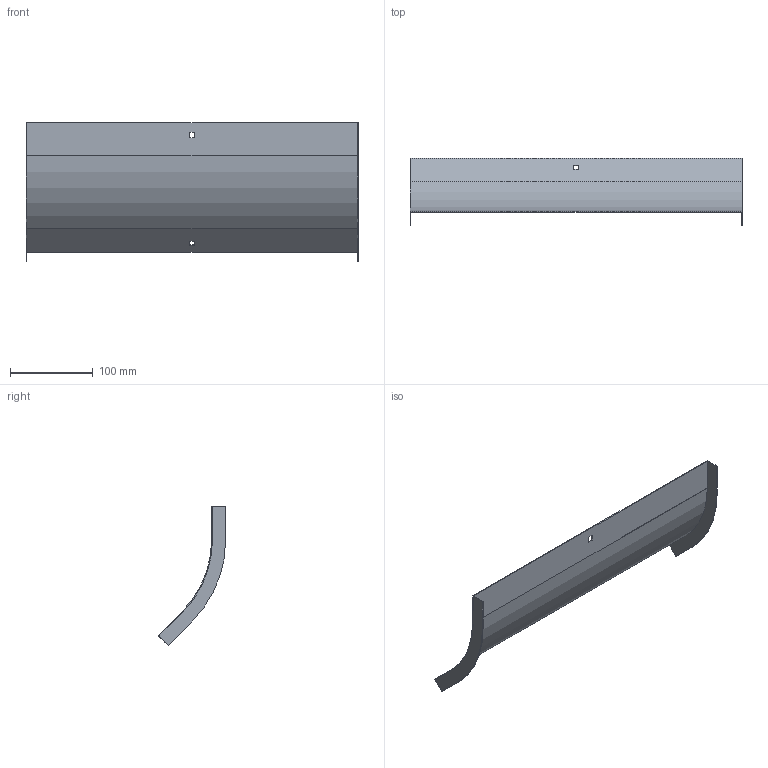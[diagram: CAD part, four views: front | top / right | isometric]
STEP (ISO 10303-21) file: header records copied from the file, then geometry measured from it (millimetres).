
FILE_DESCRIPTION (( 'STEP AP214' ), '1' );
FILE_NAME ('OS4_400.step', '2025-07-16T09:16:47', ( '' ), ( '' ), 'SwSTEP 2.0', 'SolidWorks 2023', '' );
FILE_SCHEMA (( 'AUTOMOTIVE_DESIGN' ));
Length unit declared in the file: millimetre
Products named in the file (1): OS4_400
Bounding box: 402 x 81.6 x 167.99 mm (x, y, z)
Volume: 77287 mm3; surface area: 155874.8 mm2
Topology: 1 solids, 1 shells, 26 faces, 72 edges, 48 vertices
Faces by surface type: plane 22, cylinder 4
Entity records: 855 total; most frequent: CARTESIAN_POINT 147, ORIENTED_EDGE 144, DIRECTION 134, EDGE_CURVE 72, LINE 64, VECTOR 64, VERTEX_POINT 48, AXIS2_PLACEMENT_3D 35
